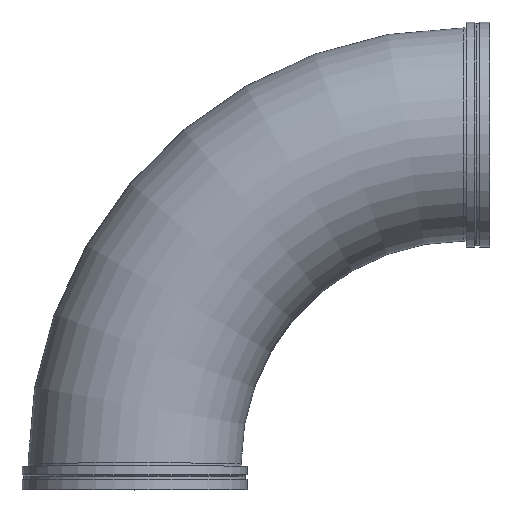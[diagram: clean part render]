
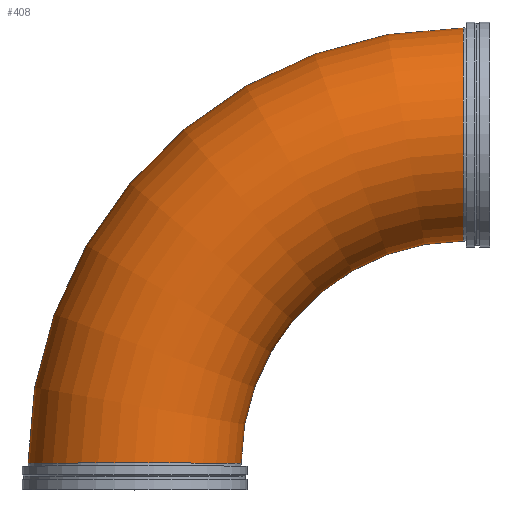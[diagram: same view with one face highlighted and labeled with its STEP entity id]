
A CAD part, top view. The second image highlights one B-rep face of the part: STEP entity #408.
In plain terms, the highlighted toroidal (fillet/blend) face has major radius 1409.7 mm and minor radius 457.2 mm.
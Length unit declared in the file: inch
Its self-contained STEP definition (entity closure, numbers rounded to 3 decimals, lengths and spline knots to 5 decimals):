
#46=TOROIDAL_SURFACE('',#484,55.5,18.);
#105=FACE_OUTER_BOUND('',#129,.T.);
#129=EDGE_LOOP('',(#346,#347,#348,#349,#350,#351));
#169=CIRCLE('',#482,18.);
#170=CIRCLE('',#483,18.);
#171=CIRCLE('',#485,37.5);
#172=CIRCLE('',#486,18.);
#173=CIRCLE('',#487,18.);
#207=VERTEX_POINT('',#756);
#208=VERTEX_POINT('',#758);
#209=VERTEX_POINT('',#762);
#210=VERTEX_POINT('',#764);
#256=EDGE_CURVE('',#207,#208,#169,.T.);
#257=EDGE_CURVE('',#208,#207,#170,.T.);
#258=EDGE_CURVE('',#208,#209,#171,.T.);
#259=EDGE_CURVE('',#209,#210,#172,.T.);
#260=EDGE_CURVE('',#210,#209,#173,.T.);
#346=ORIENTED_EDGE('',*,*,#256,.F.);
#347=ORIENTED_EDGE('',*,*,#257,.F.);
#348=ORIENTED_EDGE('',*,*,#258,.T.);
#349=ORIENTED_EDGE('',*,*,#259,.T.);
#350=ORIENTED_EDGE('',*,*,#260,.T.);
#351=ORIENTED_EDGE('',*,*,#258,.F.);
#408=ADVANCED_FACE('',(#105),#46,.T.);
#482=AXIS2_PLACEMENT_3D('',#759,#617,#618);
#483=AXIS2_PLACEMENT_3D('',#760,#619,#620);
#484=AXIS2_PLACEMENT_3D('',#761,#621,#622);
#485=AXIS2_PLACEMENT_3D('',#763,#623,#624);
#486=AXIS2_PLACEMENT_3D('',#765,#625,#626);
#487=AXIS2_PLACEMENT_3D('',#766,#627,#628);
#617=DIRECTION('center_axis',(1.,0.,0.));
#618=DIRECTION('ref_axis',(0.,-1.,0.));
#619=DIRECTION('center_axis',(1.,0.,0.));
#620=DIRECTION('ref_axis',(0.,-1.,0.));
#621=DIRECTION('center_axis',(0.,0.,-1.));
#622=DIRECTION('ref_axis',(-1.,0.,0.));
#623=DIRECTION('center_axis',(0.,0.,1.));
#624=DIRECTION('ref_axis',(-1.,0.,0.));
#625=DIRECTION('center_axis',(0.,1.,0.));
#626=DIRECTION('ref_axis',(1.,0.,0.));
#627=DIRECTION('center_axis',(0.,1.,0.));
#628=DIRECTION('ref_axis',(1.,0.,0.));
#756=CARTESIAN_POINT('',(55.5,78.,0.));
#758=CARTESIAN_POINT('',(55.5,42.,0.));
#759=CARTESIAN_POINT('Origin',(55.5,60.,0.));
#760=CARTESIAN_POINT('Origin',(55.5,60.,0.));
#761=CARTESIAN_POINT('Origin',(55.5,4.5,0.));
#762=CARTESIAN_POINT('',(18.,4.5,0.));
#763=CARTESIAN_POINT('Origin',(55.5,4.5,0.));
#764=CARTESIAN_POINT('',(-18.,4.5,0.));
#765=CARTESIAN_POINT('Origin',(0.,4.5,0.));
#766=CARTESIAN_POINT('Origin',(0.,4.5,0.));
